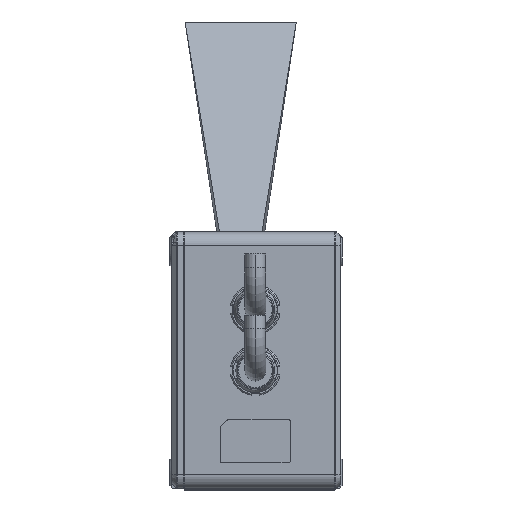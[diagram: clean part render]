
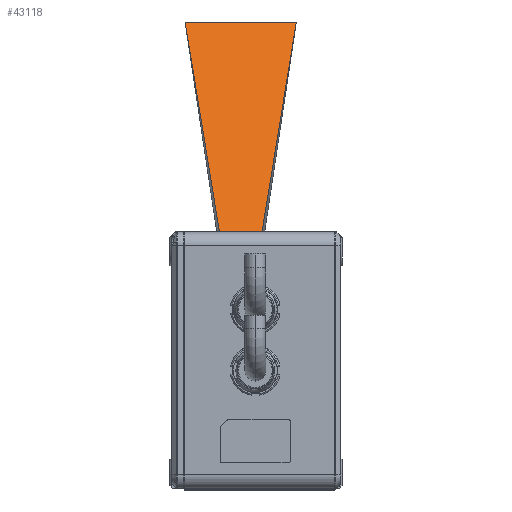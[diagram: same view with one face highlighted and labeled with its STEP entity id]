
A CAD part, left-side view. The second image highlights one B-rep face of the part: STEP entity #43118.
In plain terms, the highlighted planar face has unit normal (-0.86, 0, 0.51).
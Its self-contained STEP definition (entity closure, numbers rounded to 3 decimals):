
#42968=DIRECTION('',(0.505,0.14,0.852));
#42969=VECTOR('',#42968,94.713);
#42970=CARTESIAN_POINT('',(73.239,43.286,
-80.679));
#42971=LINE('',#42970,#42969);
#42972=DIRECTION('',(0.,-1.,0.));
#42973=VECTOR('',#42972,40.);
#42974=CARTESIAN_POINT('',(121.06,56.5,
0.));
#42975=LINE('',#42974,#42973);
#42976=DIRECTION('',(-0.505,0.14,-0.852));
#42977=VECTOR('',#42976,94.713);
#42978=CARTESIAN_POINT('',(121.06,16.5,
0.));
#42979=LINE('',#42978,#42977);
#42980=DIRECTION('',(0.,1.,0.));
#42981=VECTOR('',#42980,13.571);
#42982=CARTESIAN_POINT('',(73.239,29.714,
-80.679));
#42983=LINE('',#42982,#42981);
#42984=CARTESIAN_POINT('',(73.239,43.286,
-80.679));
#42986=VERTEX_POINT('',#42984);
#42990=CARTESIAN_POINT('',(73.239,29.714,
-80.679));
#42991=VERTEX_POINT('',#42990);
#42992=CARTESIAN_POINT('',(121.06,56.5,
0.));
#42994=VERTEX_POINT('',#42992);
#42998=CARTESIAN_POINT('',(121.06,16.5,
0.));
#42999=VERTEX_POINT('',#42998);
#43106=CARTESIAN_POINT('',(97.149,36.5,-40.339));
#43107=DIRECTION('',(0.86,0.,-0.51));
#43108=DIRECTION('',(0.,-1.,0.));
#43109=AXIS2_PLACEMENT_3D('',#43106,#43107,#43108);
#43110=PLANE('',#43109);
#43111=ORIENTED_EDGE('',*,*,#43051,.T.);
#43112=ORIENTED_EDGE('',*,*,#43011,.T.);
#43113=ORIENTED_EDGE('',*,*,#43097,.T.);
#43115=ORIENTED_EDGE('',*,*,#43114,.T.);
#43116=EDGE_LOOP('',(#43111,#43112,#43113,#43115));
#43117=FACE_OUTER_BOUND('',#43116,.F.);
#43011=EDGE_CURVE('',#42994,#42999,#42975,.T.);
#43051=EDGE_CURVE('',#42986,#42994,#42971,.T.);
#43097=EDGE_CURVE('',#42999,#42991,#42979,.T.);
#43114=EDGE_CURVE('',#42991,#42986,#42983,.T.);
#43118=ADVANCED_FACE('',(#43117),#43110,.F.);
